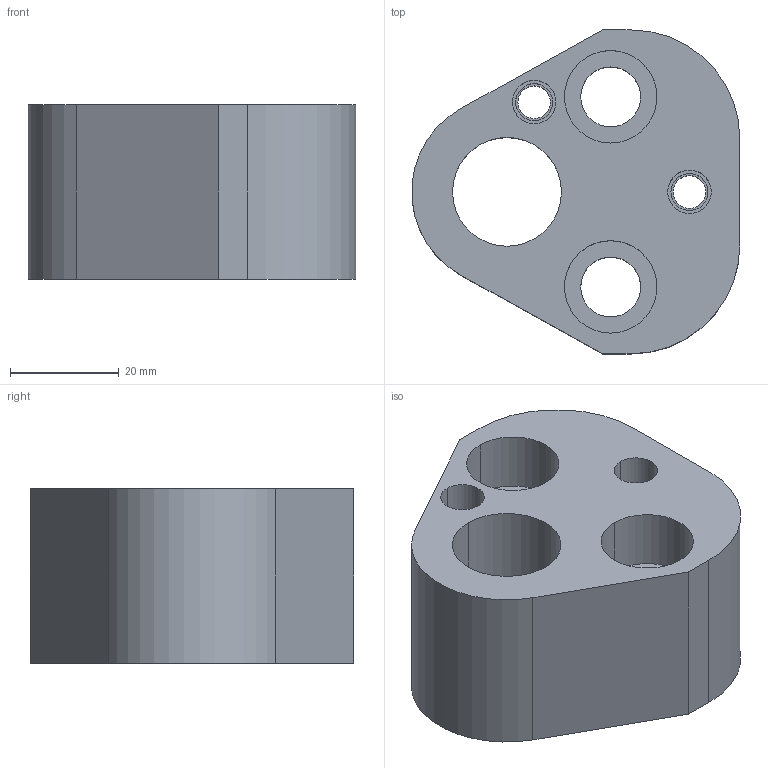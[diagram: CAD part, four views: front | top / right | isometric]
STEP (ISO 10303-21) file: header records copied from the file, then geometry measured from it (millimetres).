
FILE_DESCRIPTION(/* description */ (''),/* implementation_level */ '2;1');
FILE_NAME(/* name */ '3d_crn-a20_03613_r00.stp',/* time_stamp */ '2011-01-10T14:16:25+09:00',/* author */ ('MISUMI'),/* organization */ (''),/* preprocessor_version */ 'ST-DEVELOPER v11',/* originating_system */ 'UGS - NX 5.0',/* authorisation */ '');
FILE_SCHEMA (('CONFIG_CONTROL_DESIGN'));
Length unit declared in the file: millimetre
Products named in the file (1): 3d_crn-a20_03613_r00
Bounding box: 60.24 x 59.5 x 32 mm (x, y, z)
Volume: 64167.2 mm3; surface area: 16467.8 mm2
Topology: 1 solids, 1 shells, 41 faces, 96 edges, 64 vertices
Faces by surface type: cylinder 27, plane 14
Entity records: 1310 total; most frequent: DIRECTION 234, CARTESIAN_POINT 202, ORIENTED_EDGE 192, EDGE_CURVE 96, AXIS2_PLACEMENT_3D 96, VERTEX_POINT 64, EDGE_LOOP 58, CIRCLE 54
